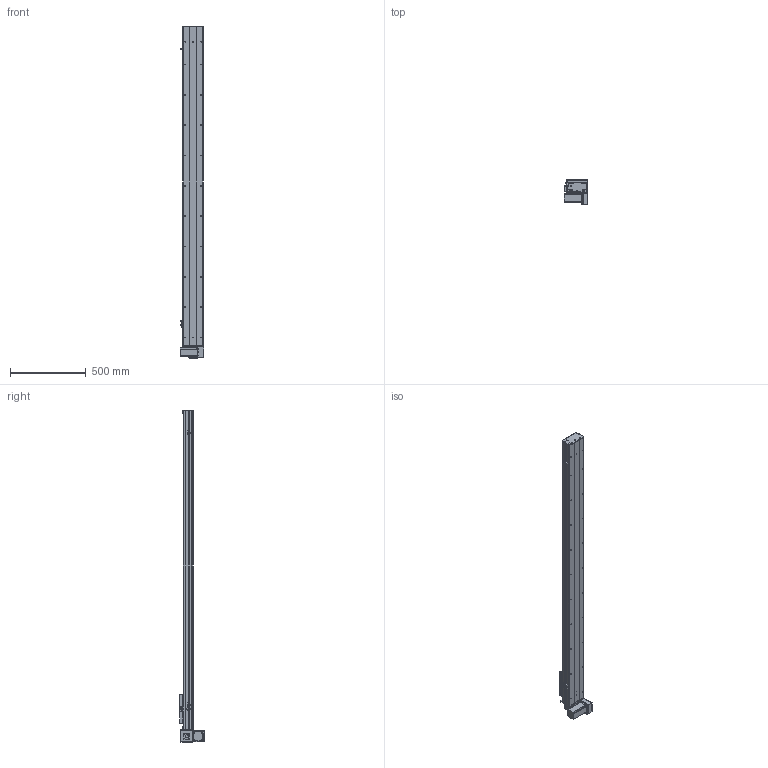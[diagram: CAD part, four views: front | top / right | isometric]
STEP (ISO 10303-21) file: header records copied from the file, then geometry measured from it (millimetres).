
FILE_DESCRIPTION (( 'STEP AP203' ), '1' );
FILE_NAME ('Y135CB-D90-S1800-BM-P400W.STEP', '2020-02-19T01:35:28', ( '微软用户' ), ( '微软中国' ), 'SwSTEP 2.0', 'SolidWorks 2017', '' );
FILE_SCHEMA (( 'CONFIG_CONTROL_DESIGN' ));
Length unit declared in the file: millimetre
Products named in the file (18): C-詩湍揤踡え-陔; Y135CB-耜裔; 5C--俋欶; 135CB---遴掛极.-; C-雄赽釱--; 35CB---喘謫眊楊擘啣; Y10B--々湍喘謫眊--666; 0B-埴倛裔啣; 135CB--詩湍-CE; 00B-俋欶BM--; 0B-源倛裔啣; Y10B-耜蚾蟀諉啣----; 0B-萇儂楊擘啣; Y135CB-D90-S1800-BM-P400W; san松下电机400不带刹车----; Y100-135俋离換覜ん--; 5CB --掛极耜裔啣-; Y135C-陔俋离換覜結え-
Assembly tree (21 placements, depth 2):
  Y135CB-D90-S1800-BM-P400W
    Y135CB-耜裔
    135CB---遴掛极.-
    35CB---喘謫眊楊擘啣
    0B-埴倛裔啣
    0B-源倛裔啣
    0B-萇儂楊擘啣
    san松下电机400不带刹车----
    5CB --掛极耜裔啣-  x2
    C-詩湍揤踡え-陔  x2
    135CB--詩湍-CE
    Y100-135俋离換覜ん--  x3
    Y135C-陔俋离換覜結え-
    5C--俋欶
    C-雄赽釱--
    Y10B--々湍喘謫眊--666
    00B-俋欶BM--
    Y10B-耜蚾蟀諉啣----
Bounding box: 157 x 163.3 x 2188 mm (x, y, z)
Volume: 6463981.7 mm3; surface area: 2550237.8 mm2
Topology: 21 solids, 21 shells, 961 faces, 2599 edges, 1722 vertices
Faces by surface type: cylinder 489, plane 456, cone 16
Entity records: 30157 total; most frequent: DIRECTION 5011, CARTESIAN_POINT 4988, ORIENTED_EDGE 4674, EDGE_CURVE 2337, AXIS2_PLACEMENT_3D 1833, VERTEX_POINT 1550, VECTOR 1345, LINE 1345
